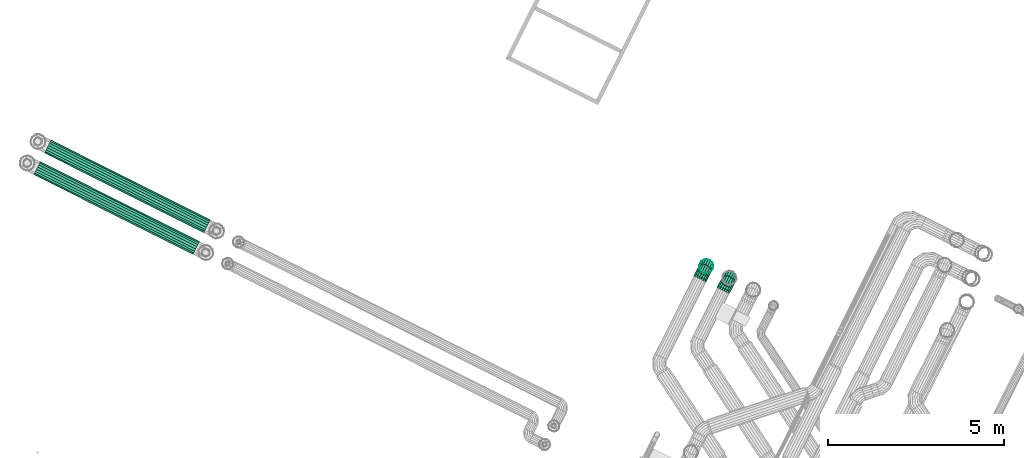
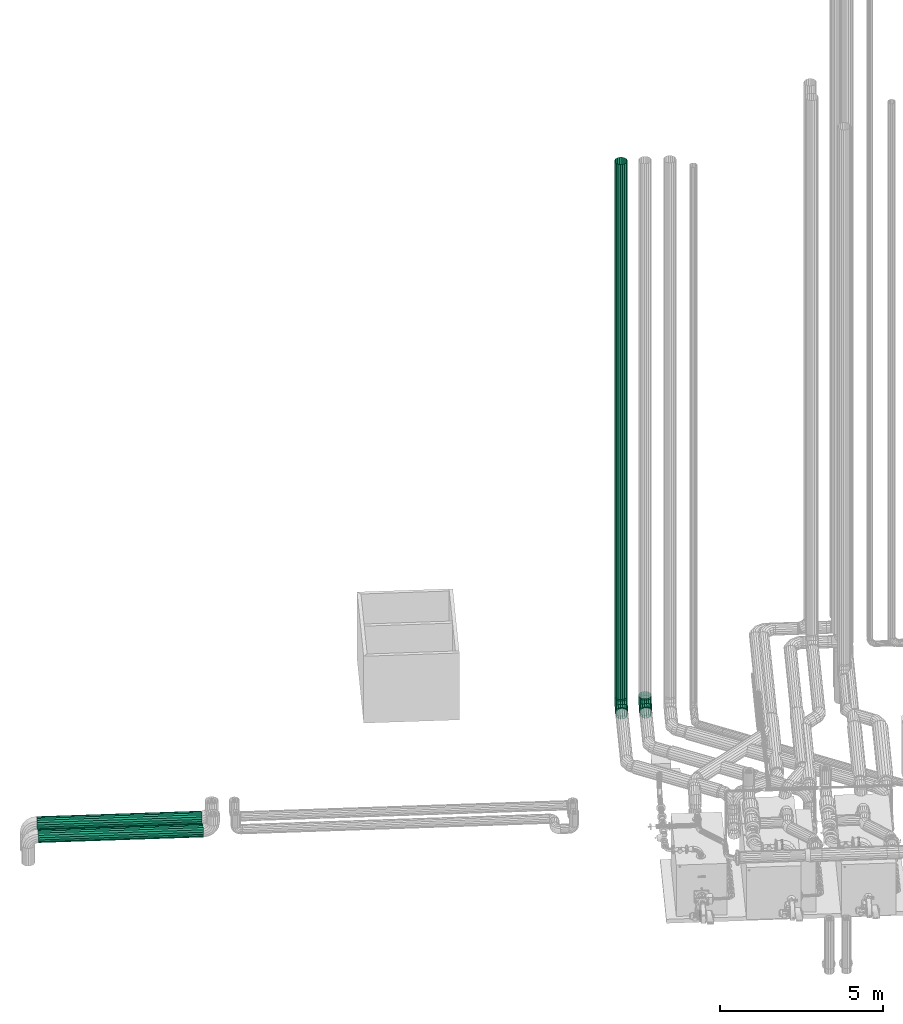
# One storey, part 29 of 206: 3 flow segments, 2 flow fittings.
"""IFC2X3 building model written with IfcOpenShell, lengths in metres."""

from ifc_helpers import new_model, si_unit, derived_unit, direction, frame, origin, place, context, subcontext, project, spatial, face_set, surface_model, source, transform, mapped, material, type_object, type_shapes, element, save


model = new_model("IFC2X3")

# Units and contexts
model_context = context("Model", 3, precision=5.2338327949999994e-05, world=origin(), true_north=direction((0.0, 1.0)))
body_context = subcontext(model_context, "Body", "Model", "MODEL_VIEW")
ifc_project = project(units=[si_unit("LENGTHUNIT", "METRE"), si_unit("AREAUNIT", "SQUARE_METRE"), si_unit("VOLUMEUNIT", "CUBIC_METRE"), si_unit("MASSUNIT", "GRAM", prefix="KILO"), si_unit("PLANEANGLEUNIT", "RADIAN"), derived_unit("THERMALTRANSMITTANCEUNIT", [(si_unit("MASSUNIT", "GRAM", prefix="KILO"), 1), (si_unit("THERMODYNAMICTEMPERATUREUNIT", "KELVIN"), -1), (si_unit("TIMEUNIT", "SECOND"), -3)])], contexts=[model_context])

# Site, building, storey
site_placement = place(None, frame((0.0, 0.0, 0.0), z_axis=(0.0, 0.0, 1.0), x_axis=(0.8939966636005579, -0.4480736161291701, 0.0)))
site = spatial("IfcSite", under=ifc_project, at=site_placement, Name="Default", CompositionType="ELEMENT")
building_placement = place(site_placement, origin())
building = spatial("IfcBuilding", under=site, at=building_placement, CompositionType="ELEMENT")
storey_placement = place(building_placement, origin())
storey = spatial("IfcBuildingStorey", under=building, at=storey_placement, Name="Erdgeschoss", CompositionType="ELEMENT", Elevation=0.0)

# Flow fitting
ifc_material_1 = material(Name="IfcSurfaceStyle #251447")
distribution_element_type_1 = type_object("IfcDistributionElementType", Name="Segmentbogen 4 teilig 280394:Segmentbogen 4 teilig 280394", material=ifc_material_1)
shared_shape_1 = source(origin(), body_context, "Body", "SurfaceModel", [
    surface_model("IfcFaceBasedSurfaceModel", [(19.66102261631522, 13.347668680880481, 2.6), (19.648961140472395, 13.279264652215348, 2.6), (19.648961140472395, 13.279264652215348, 2.511149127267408), (19.66102261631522, 13.347668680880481, 2.4928203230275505), (19.61423150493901, 13.219111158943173, 2.6), (19.61423150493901, 13.219111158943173, 2.527267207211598), (19.56102261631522, 13.174463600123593, 2.6), (19.56102261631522, 13.174463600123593, 2.539230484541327), (19.495752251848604, 13.15070713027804, 2.6), (19.495752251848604, 13.15070713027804, 2.5455960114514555), (19.426292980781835, 13.150707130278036, 2.6), (19.426292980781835, 13.150707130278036, 2.5455960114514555), (19.361022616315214, 13.17446360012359, 2.6), (19.361022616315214, 13.17446360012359, 2.539230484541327), (19.30781372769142, 13.21911115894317, 2.6), (19.30781372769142, 13.21911115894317, 2.527267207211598), (19.273084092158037, 13.279264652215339, 2.6), (19.273084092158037, 13.279264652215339, 2.511149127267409), (19.261022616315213, 13.347668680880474, 2.6), (19.261022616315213, 13.3476686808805, 2.4928203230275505), (19.273084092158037, 13.41607270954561, 2.6), (19.273084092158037, 13.41607270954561, 2.4744915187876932), (19.30781372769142, 13.476226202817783, 2.6), (19.30781372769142, 13.476226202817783, 2.458373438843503), (19.361022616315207, 13.520873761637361, 2.6), (19.361022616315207, 13.520873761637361, 2.4464101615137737), (19.426292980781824, 13.544630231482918, 2.6), (19.426292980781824, 13.544630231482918, 2.440044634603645), (19.495752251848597, 13.544630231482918, 2.6), (19.495752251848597, 13.544630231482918, 2.440044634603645), (19.561022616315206, 13.52087376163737, 2.6), (19.561022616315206, 13.52087376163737, 2.4464101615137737), (19.614231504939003, 13.476226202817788, 2.6), (19.614231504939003, 13.476226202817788, 2.458373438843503), (19.648961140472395, 13.416072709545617, 2.6), (19.648961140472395, 13.416072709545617, 2.4744915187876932), (19.648961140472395, 13.190413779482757, 2.357254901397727), (19.661022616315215, 13.240489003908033, 2.30717967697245), (19.614231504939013, 13.146378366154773, 2.401290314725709), (19.56102261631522, 13.11369408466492, 2.43397459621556), (19.495752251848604, 13.096303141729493, 2.4513655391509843), (19.426292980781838, 13.096303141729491, 2.4513655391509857), (19.36102261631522, 13.113694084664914, 2.4339745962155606), (19.30781372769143, 13.146378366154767, 2.401290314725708), (19.27308409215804, 13.190413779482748, 2.357254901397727), (19.26102261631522, 13.240489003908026, 2.30717967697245), (19.273084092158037, 13.290564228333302, 2.257104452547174), (19.30781372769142, 13.334599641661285, 2.2130690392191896), (19.361022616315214, 13.36728392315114, 2.1803847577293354), (19.426292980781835, 13.384674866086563, 2.1629938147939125), (19.4957522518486, 13.384674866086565, 2.1629938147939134), (19.56102261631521, 13.367283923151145, 2.1803847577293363), (19.614231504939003, 13.334599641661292, 2.2130690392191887), (19.648961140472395, 13.29056422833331, 2.257104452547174), (19.648961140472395, 13.036519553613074, 2.268404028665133), (19.661022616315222, 13.054848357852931, 2.2000000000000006), (19.614231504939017, 13.020401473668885, 2.328557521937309), (19.56102261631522, 13.008438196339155, 2.37320508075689), (19.495752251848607, 13.002072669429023, 2.3969615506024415), (19.426292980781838, 13.002072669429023, 2.3969615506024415), (19.36102261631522, 13.008438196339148, 2.3732050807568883), (19.307813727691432, 13.020401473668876, 2.3285575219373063), (19.273084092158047, 13.036519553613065, 2.2684040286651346), (19.261022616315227, 13.054848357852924, 2.1999999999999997), (19.273084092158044, 13.073177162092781, 2.1315959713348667), (19.307813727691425, 13.089295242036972, 2.0714424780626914), (19.36102261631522, 13.1012585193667, 2.0267949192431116), (19.426292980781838, 13.107624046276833, 2.0030384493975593), (19.495752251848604, 13.107624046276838, 2.003038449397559), (19.56102261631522, 13.101258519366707, 2.0267949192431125), (19.614231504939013, 13.089295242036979, 2.071442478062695), (19.648961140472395, 13.07317716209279, 2.131595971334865), (19.648961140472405, 12.947668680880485, 2.2684040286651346), (19.661022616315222, 12.947668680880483, 2.1999999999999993), (19.61423150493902, 12.947668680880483, 2.3285575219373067), (19.561022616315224, 12.947668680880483, 2.37320508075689), (19.49575225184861, 12.947668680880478, 2.3969615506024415), (19.42629298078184, 12.947668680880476, 2.396961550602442), (19.36102261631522, 12.947668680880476, 2.373205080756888), (19.307813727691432, 12.947668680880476, 2.3285575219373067), (19.273084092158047, 12.947668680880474, 2.2684040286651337), (19.26102261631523, 12.947668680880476, 2.2000000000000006), (19.273084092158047, 12.947668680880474, 2.1315959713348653), (19.307813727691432, 12.947668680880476, 2.0714424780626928), (19.36102261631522, 12.947668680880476, 2.0267949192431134), (19.42629298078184, 12.947668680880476, 2.003038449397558), (19.49575225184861, 12.94766868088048, 2.003038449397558), (19.561022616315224, 12.947668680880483, 2.0267949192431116), (19.61423150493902, 12.947668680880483, 2.0714424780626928), (19.648961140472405, 12.947668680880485, 2.1315959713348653)], [face_set([[[0, 1, 2, 3]], [[1, 4, 5, 2]], [[4, 6, 7, 5]], [[6, 8, 9, 7]], [[8, 10, 11, 9]], [[10, 12, 13, 11]], [[12, 14, 15, 13]], [[14, 16, 17, 15]], [[16, 18, 19, 17]], [[18, 20, 21, 19]], [[20, 22, 23, 21]], [[22, 24, 25, 23]], [[24, 26, 27, 25]], [[26, 28, 29, 27]], [[28, 30, 31, 29]], [[30, 32, 33, 31]], [[32, 34, 35, 33]], [[34, 0, 3, 35]], [[3, 2, 36, 37]], [[2, 5, 38, 36]], [[5, 7, 39, 38]], [[7, 9, 40, 39]], [[9, 11, 41, 40]], [[11, 13, 42, 41]], [[13, 15, 43, 42]], [[15, 17, 44, 43]], [[17, 19, 45, 44]], [[19, 21, 46, 45]], [[21, 23, 47, 46]], [[23, 25, 48, 47]], [[25, 27, 49, 48]], [[27, 29, 50, 49]], [[29, 31, 51, 50]], [[31, 33, 52, 51]], [[33, 35, 53, 52]], [[35, 3, 37, 53]], [[37, 36, 54, 55]], [[36, 38, 56, 54]], [[38, 39, 57, 56]], [[39, 40, 58, 57]], [[40, 41, 59, 58]], [[41, 42, 60, 59]], [[42, 43, 61, 60]], [[43, 44, 62, 61]], [[44, 45, 63, 62]], [[45, 46, 64, 63]], [[46, 47, 65, 64]], [[47, 48, 66, 65]], [[48, 49, 67, 66]], [[49, 50, 68, 67]], [[50, 51, 69, 68]], [[51, 52, 70, 69]], [[52, 53, 71, 70]], [[53, 37, 55, 71]], [[55, 54, 72, 73]], [[54, 56, 74, 72]], [[56, 57, 75, 74]], [[57, 58, 76, 75]], [[58, 59, 77, 76]], [[59, 60, 78, 77]], [[60, 61, 79, 78]], [[61, 62, 80, 79]], [[62, 63, 81, 80]], [[63, 64, 82, 81]], [[64, 65, 83, 82]], [[65, 66, 84, 83]], [[66, 67, 85, 84]], [[67, 68, 86, 85]], [[68, 69, 87, 86]], [[69, 70, 88, 87]], [[70, 71, 89, 88]], [[71, 55, 73, 89]]])]),
])
type_shapes(distribution_element_type_1, [shared_shape_1])
flow_fitting_1_placement = place(storey_placement, origin())
element("IfcFlowFitting", 1, at=flow_fitting_1_placement, inside=storey, type_object=distribution_element_type_1, material=ifc_material_1, Name="Segmentbogen 4 teilig", ObjectType="Segmentbogen 4 teilig", context=body_context, shape_type="MappedRepresentation", body=[
    mapped(shared_shape_1, transform((0.0, 0.0, 0.0), scale=1.0)),
])

# Flow segment
distribution_element_type_2 = type_object("IfcDistributionElementType", Name="Wickelfalzrohr 280572:Wickelfalzrohr 280572", material=ifc_material_1)
shared_shape_2 = source(origin(), body_context, "Body", "SurfaceModel", [
    surface_model("IfcFaceBasedSurfaceModel", [(19.26102261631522, 13.347668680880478, 2.6), (19.273084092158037, 13.279264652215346, 2.6), (19.273084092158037, 13.279264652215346, 22.599999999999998), (19.261022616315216, 13.347668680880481, 22.599999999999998), (19.307813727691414, 13.219111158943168, 2.6), (19.307813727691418, 13.219111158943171, 22.599999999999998), (19.36102261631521, 13.174463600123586, 2.6), (19.36102261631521, 13.174463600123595, 22.599999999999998), (19.426292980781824, 13.15070713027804, 2.6), (19.426292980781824, 13.150707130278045, 22.599999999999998), (19.495752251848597, 13.150707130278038, 2.6), (19.495752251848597, 13.150707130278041, 22.599999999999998), (19.561022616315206, 13.174463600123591, 2.6), (19.561022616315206, 13.1744636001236, 22.599999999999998), (19.614231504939, 13.219111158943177, 2.6), (19.614231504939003, 13.219111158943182, 22.599999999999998), (19.648961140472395, 13.279264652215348, 2.6), (19.648961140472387, 13.279264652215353, 22.599999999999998), (19.66102261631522, 13.347668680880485, 2.6), (19.66102261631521, 13.347668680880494, 22.599999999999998), (19.648961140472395, 13.416072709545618, 2.6), (19.648961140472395, 13.416072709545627, 22.599999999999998), (19.614231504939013, 13.476226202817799, 2.6), (19.614231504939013, 13.476226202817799, 22.599999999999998), (19.561022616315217, 13.520873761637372, 2.6), (19.56102261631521, 13.520873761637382, 22.599999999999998), (19.495752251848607, 13.544630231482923, 2.6), (19.495752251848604, 13.544630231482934, 22.599999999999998), (19.426292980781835, 13.54463023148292, 2.6), (19.426292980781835, 13.544630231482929, 22.599999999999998), (19.36102261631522, 13.520873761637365, 2.6), (19.361022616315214, 13.520873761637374, 22.599999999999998), (19.30781372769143, 13.476226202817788, 2.6), (19.30781372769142, 13.476226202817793, 22.599999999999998), (19.273084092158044, 13.41607270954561, 2.6), (19.27308409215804, 13.416072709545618, 22.599999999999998)], [face_set([[[0, 1, 2, 3]], [[1, 4, 5, 2]], [[4, 6, 7, 5]], [[6, 8, 9, 7]], [[8, 10, 11, 9]], [[10, 12, 13, 11]], [[12, 14, 15, 13]], [[14, 16, 17, 15]], [[16, 18, 19, 17]], [[18, 20, 21, 19]], [[20, 22, 23, 21]], [[22, 24, 25, 23]], [[24, 26, 27, 25]], [[26, 28, 29, 27]], [[28, 30, 31, 29]], [[30, 32, 33, 31]], [[32, 34, 35, 33]], [[34, 0, 3, 35]]])]),
])
type_shapes(distribution_element_type_2, [shared_shape_2])
flow_segment_1_placement = place(storey_placement, origin())
element("IfcFlowSegment", 2, at=flow_segment_1_placement, inside=storey, type_object=distribution_element_type_2, material=ifc_material_1, Name="Wickelfalzrohr", ObjectType="Wickelfalzrohr", context=body_context, shape_type="MappedRepresentation", body=[
    mapped(shared_shape_2, transform((0.0, 0.0, 0.0), scale=1.0)),
])

# Flow fitting
distribution_element_type_3 = type_object("IfcDistributionElementType", Name="Segmentbogen 4 teilig 281152:Segmentbogen 4 teilig 281152", material=ifc_material_1)
shared_shape_3 = source(origin(), body_context, "Body", "SurfaceModel", [
    surface_model("IfcFaceBasedSurfaceModel", [(19.99823419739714, 12.947668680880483, 2.2), (20.010295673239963, 12.947668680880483, 2.2684040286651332), (20.010295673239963, 13.036519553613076, 2.2684040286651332), (19.99823419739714, 13.054848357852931, 2.2000000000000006), (20.045025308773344, 12.947668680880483, 2.3285575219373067), (20.045025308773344, 13.020401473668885, 2.3285575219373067), (20.098234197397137, 12.947668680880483, 2.3732050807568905), (20.098234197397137, 13.008438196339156, 2.3732050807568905), (20.163504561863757, 12.947668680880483, 2.396961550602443), (20.163504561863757, 13.002072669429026, 2.396961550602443), (20.23296383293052, 12.947668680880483, 2.396961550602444), (20.23296383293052, 13.002072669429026, 2.396961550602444), (20.29823419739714, 12.947668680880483, 2.373205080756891), (20.29823419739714, 13.008438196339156, 2.373205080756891), (20.351443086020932, 12.947668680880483, 2.32855752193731), (20.351443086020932, 13.020401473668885, 2.32855752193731), (20.386172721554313, 12.947668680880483, 2.2684040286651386), (20.386172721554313, 13.036519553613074, 2.2684040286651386), (20.39823419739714, 12.947668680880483, 2.200000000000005), (20.398234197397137, 13.054848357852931, 2.199999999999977), (20.386172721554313, 12.947668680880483, 2.13159597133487), (20.386172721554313, 13.07317716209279, 2.13159597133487), (20.351443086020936, 12.947668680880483, 2.071442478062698), (20.351443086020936, 13.08929524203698, 2.071442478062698), (20.298234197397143, 12.947668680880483, 2.026794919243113), (20.298234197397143, 13.10125851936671, 2.026794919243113), (20.232963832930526, 12.947668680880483, 2.0030384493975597), (20.232963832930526, 13.107624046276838, 2.0030384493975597), (20.163504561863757, 12.947668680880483, 2.0030384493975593), (20.163504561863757, 13.107624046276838, 2.0030384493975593), (20.09823419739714, 12.947668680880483, 2.026794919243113), (20.09823419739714, 13.10125851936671, 2.026794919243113), (20.045025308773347, 12.947668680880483, 2.071442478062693), (20.045025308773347, 13.08929524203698, 2.071442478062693), (20.010295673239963, 12.947668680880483, 2.131595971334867), (20.010295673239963, 13.07317716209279, 2.131595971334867), (20.010295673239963, 13.190413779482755, 2.357254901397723), (19.99823419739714, 13.240489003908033, 2.307179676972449), (20.045025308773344, 13.146378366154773, 2.401290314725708), (20.098234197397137, 13.113694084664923, 2.433974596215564), (20.163504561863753, 13.096303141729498, 2.451365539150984), (20.232963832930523, 13.096303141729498, 2.4513655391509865), (20.29823419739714, 13.113694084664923, 2.4339745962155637), (20.351443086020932, 13.146378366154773, 2.401290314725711), (20.386172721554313, 13.190413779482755, 2.3572549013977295), (20.398234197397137, 13.240489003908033, 2.307179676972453), (20.386172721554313, 13.290564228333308, 2.2571044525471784), (20.351443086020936, 13.334599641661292, 2.2130690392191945), (20.298234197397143, 13.367283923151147, 2.1803847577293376), (20.232963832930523, 13.38467486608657, 2.162993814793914), (20.163504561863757, 13.38467486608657, 2.162993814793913), (20.09823419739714, 13.367283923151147, 2.180384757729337), (20.045025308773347, 13.334599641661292, 2.2130690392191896), (20.010295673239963, 13.290564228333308, 2.2571044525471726), (20.010295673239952, 13.279264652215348, 2.5111491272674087), (19.998234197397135, 13.347668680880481, 2.4928203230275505), (20.045025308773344, 13.219111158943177, 2.527267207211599), (20.098234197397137, 13.174463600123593, 2.5392304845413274), (20.163504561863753, 13.150707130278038, 2.5455960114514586), (20.23296383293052, 13.15070713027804, 2.54559601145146), (20.298234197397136, 13.174463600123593, 2.5392304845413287), (20.35144308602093, 13.219111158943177, 2.5272672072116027), (20.386172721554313, 13.279264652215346, 2.5111491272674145), (20.39823419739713, 13.347668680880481, 2.4928203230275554), (20.38617272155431, 13.416072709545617, 2.474491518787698), (20.351443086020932, 13.476226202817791, 2.4583734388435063), (20.298234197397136, 13.520873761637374, 2.4464101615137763), (20.232963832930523, 13.544630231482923, 2.4400446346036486), (20.163504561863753, 13.544630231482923, 2.440044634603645), (20.098234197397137, 13.52087376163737, 2.446410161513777), (20.045025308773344, 13.476226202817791, 2.4583734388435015), (20.010295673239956, 13.41607270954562, 2.4744915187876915), (20.010295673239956, 13.279264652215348, 2.5999999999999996), (19.99823419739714, 13.347668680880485, 2.5999999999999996), (20.04502530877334, 13.219111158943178, 2.5999999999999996), (20.098234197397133, 13.174463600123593, 2.6), (20.16350456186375, 13.15070713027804, 2.6000000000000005), (20.23296383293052, 13.15070713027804, 2.6000000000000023), (20.298234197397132, 13.174463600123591, 2.6000000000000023), (20.35144308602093, 13.219111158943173, 2.600000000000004), (20.38617272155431, 13.279264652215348, 2.600000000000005), (20.398234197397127, 13.34766868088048, 2.600000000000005), (20.386172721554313, 13.416072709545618, 2.600000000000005), (20.35144308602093, 13.476226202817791, 2.6000000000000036), (20.298234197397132, 13.520873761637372, 2.6000000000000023), (20.23296383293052, 13.544630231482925, 2.6000000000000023), (20.16350456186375, 13.544630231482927, 2.6), (20.098234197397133, 13.520873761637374, 2.6), (20.04502530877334, 13.476226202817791, 2.5999999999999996), (20.010295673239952, 13.416072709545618, 2.5999999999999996)], [face_set([[[0, 1, 2, 3]], [[1, 4, 5, 2]], [[4, 6, 7, 5]], [[6, 8, 9, 7]], [[8, 10, 11, 9]], [[10, 12, 13, 11]], [[12, 14, 15, 13]], [[14, 16, 17, 15]], [[16, 18, 19, 17]], [[18, 20, 21, 19]], [[20, 22, 23, 21]], [[22, 24, 25, 23]], [[24, 26, 27, 25]], [[26, 28, 29, 27]], [[28, 30, 31, 29]], [[30, 32, 33, 31]], [[32, 34, 35, 33]], [[34, 0, 3, 35]], [[3, 2, 36, 37]], [[2, 5, 38, 36]], [[5, 7, 39, 38]], [[7, 9, 40, 39]], [[9, 11, 41, 40]], [[11, 13, 42, 41]], [[13, 15, 43, 42]], [[15, 17, 44, 43]], [[17, 19, 45, 44]], [[19, 21, 46, 45]], [[21, 23, 47, 46]], [[23, 25, 48, 47]], [[25, 27, 49, 48]], [[27, 29, 50, 49]], [[29, 31, 51, 50]], [[31, 33, 52, 51]], [[33, 35, 53, 52]], [[35, 3, 37, 53]], [[37, 36, 54, 55]], [[36, 38, 56, 54]], [[38, 39, 57, 56]], [[39, 40, 58, 57]], [[40, 41, 59, 58]], [[41, 42, 60, 59]], [[42, 43, 61, 60]], [[43, 44, 62, 61]], [[44, 45, 63, 62]], [[45, 46, 64, 63]], [[46, 47, 65, 64]], [[47, 48, 66, 65]], [[48, 49, 67, 66]], [[49, 50, 68, 67]], [[50, 51, 69, 68]], [[51, 52, 70, 69]], [[52, 53, 71, 70]], [[53, 37, 55, 71]], [[55, 54, 72, 73]], [[54, 56, 74, 72]], [[56, 57, 75, 74]], [[57, 58, 76, 75]], [[58, 59, 77, 76]], [[59, 60, 78, 77]], [[60, 61, 79, 78]], [[61, 62, 80, 79]], [[62, 63, 81, 80]], [[63, 64, 82, 81]], [[64, 65, 83, 82]], [[65, 66, 84, 83]], [[66, 67, 85, 84]], [[67, 68, 86, 85]], [[68, 69, 87, 86]], [[69, 70, 88, 87]], [[70, 71, 89, 88]], [[71, 55, 73, 89]]])]),
])
type_shapes(distribution_element_type_3, [shared_shape_3])
flow_fitting_2_placement = place(storey_placement, origin())
element("IfcFlowFitting", 3, at=flow_fitting_2_placement, inside=storey, type_object=distribution_element_type_3, material=ifc_material_1, Name="Segmentbogen 4 teilig", ObjectType="Segmentbogen 4 teilig", context=body_context, shape_type="MappedRepresentation", body=[
    mapped(shared_shape_3, transform((0.0, 0.0, 0.0), scale=1.0)),
])

# Flow segments
ifc_material_2 = material(Name="IfcSurfaceStyle #9317")
distribution_element_type_4 = type_object("IfcDistributionElementType", Name="Stahlrohr nach DIN 2448 304028:Stahlrohr nach DIN 2448 304028", material=ifc_material_2)
shared_shape_4 = source(origin(), body_context, "Body", "SurfaceModel", [
    surface_model("IfcFaceBasedSurfaceModel", [(1.221269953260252, 7.217658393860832, 2.317798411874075), (1.221269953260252, 7.224265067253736, 2.280330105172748), (6.282814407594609, 7.224265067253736, 2.280330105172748), (6.282814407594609, 7.217658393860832, 2.3177984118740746), (1.221269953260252, 7.243288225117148, 2.2473810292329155), (6.282814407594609, 7.243288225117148, 2.2473810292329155), (1.221269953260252, 7.272433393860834, 2.22292532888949), (6.282814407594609, 7.272433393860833, 2.22292532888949), (1.221269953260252, 7.308185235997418, 2.209912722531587), (6.282814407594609, 7.308185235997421, 2.209912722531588), (1.221269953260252, 7.346231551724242, 2.2099127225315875), (6.282814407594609, 7.346231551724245, 2.2099127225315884), (1.221269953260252, 7.381983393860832, 2.22292532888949), (6.282814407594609, 7.381983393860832, 2.22292532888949), (1.221269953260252, 7.411128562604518, 2.247381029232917), (6.282814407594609, 7.411128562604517, 2.2473810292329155), (1.221269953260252, 7.430151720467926, 2.2803301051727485), (6.282814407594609, 7.4301517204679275, 2.280330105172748), (1.221269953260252, 7.436758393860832, 2.3177984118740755), (6.282814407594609, 7.436758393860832, 2.3177984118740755), (1.221269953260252, 7.4301517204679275, 2.355266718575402), (6.282814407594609, 7.4301517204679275, 2.3552667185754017), (1.221269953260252, 7.411128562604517, 2.3882157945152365), (6.282814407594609, 7.411128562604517, 2.388215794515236), (1.221269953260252, 7.381983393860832, 2.41267149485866), (6.282814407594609, 7.381983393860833, 2.4126714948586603), (1.221269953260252, 7.346231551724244, 2.425684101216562), (6.282814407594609, 7.346231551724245, 2.4256841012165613), (1.221269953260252, 7.308185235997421, 2.4256841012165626), (6.282814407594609, 7.3081852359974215, 2.4256841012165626), (1.221269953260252, 7.272433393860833, 2.4126714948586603), (6.282814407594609, 7.272433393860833, 2.4126714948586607), (1.221269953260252, 7.243288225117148, 2.388215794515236), (6.282814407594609, 7.243288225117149, 2.388215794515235), (1.221269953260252, 7.224265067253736, 2.3552667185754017), (6.282814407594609, 7.224265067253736, 2.3552667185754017), (1.221269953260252, 7.1176583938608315, 2.3177984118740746), (1.221269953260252, 7.130295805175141, 2.246128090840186), (6.282814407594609, 7.130295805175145, 2.2461280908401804), (6.282814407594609, 7.117658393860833, 2.317798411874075), (1.221269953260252, 7.166683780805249, 2.183102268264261), (6.282814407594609, 7.1666837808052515, 2.18310226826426), (1.221269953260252, 7.222433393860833, 2.1363227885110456), (6.282814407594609, 7.222433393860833, 2.1363227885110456), (1.221269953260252, 7.290820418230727, 2.111431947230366), (6.282814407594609, 7.290820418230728, 2.1114319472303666), (1.221269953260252, 7.363596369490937, 2.1114319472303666), (6.282814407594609, 7.363596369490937, 2.1114319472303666), (1.221269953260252, 7.431983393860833, 2.1363227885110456), (6.282814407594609, 7.4319833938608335, 2.1363227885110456), (1.221269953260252, 7.487733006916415, 2.1831022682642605), (6.282814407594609, 7.487733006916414, 2.1831022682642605), (1.221269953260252, 7.524120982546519, 2.2461280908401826), (6.282814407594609, 7.5241209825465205, 2.2461280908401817), (1.221269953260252, 7.536758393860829, 2.317798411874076), (6.282814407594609, 7.536758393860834, 2.3177984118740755), (1.221269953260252, 7.524120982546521, 2.38946873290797), (6.282814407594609, 7.524120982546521, 2.3894687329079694), (1.221269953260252, 7.487733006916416, 2.45249455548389), (6.282814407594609, 7.487733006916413, 2.45249455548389), (1.221269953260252, 7.431983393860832, 2.4992740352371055), (6.282814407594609, 7.431983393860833, 2.499274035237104), (1.221269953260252, 7.363596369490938, 2.524164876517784), (6.282814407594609, 7.363596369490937, 2.524164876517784), (1.221269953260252, 7.290820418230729, 2.524164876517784), (6.282814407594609, 7.290820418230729, 2.524164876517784), (1.221269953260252, 7.222433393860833, 2.499274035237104), (6.282814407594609, 7.222433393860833, 2.4992740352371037), (1.221269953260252, 7.16668378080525, 2.45249455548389), (6.282814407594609, 7.166683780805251, 2.4524945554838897), (1.221269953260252, 7.130295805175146, 2.3894687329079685), (6.282814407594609, 7.130295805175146, 2.3894687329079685)], [face_set([[[0, 1, 2, 3]], [[1, 4, 5, 2]], [[4, 6, 7, 5]], [[6, 8, 9, 7]], [[8, 10, 11, 9]], [[10, 12, 13, 11]], [[12, 14, 15, 13]], [[14, 16, 17, 15]], [[16, 18, 19, 17]], [[18, 20, 21, 19]], [[20, 22, 23, 21]], [[22, 24, 25, 23]], [[24, 26, 27, 25]], [[26, 28, 29, 27]], [[28, 30, 31, 29]], [[30, 32, 33, 31]], [[32, 34, 35, 33]], [[34, 0, 3, 35]], [[36, 37, 38, 39]], [[37, 40, 41, 38]], [[40, 42, 43, 41]], [[42, 44, 45, 43]], [[44, 46, 47, 45]], [[46, 48, 49, 47]], [[48, 50, 51, 49]], [[50, 52, 53, 51]], [[52, 54, 55, 53]], [[54, 56, 57, 55]], [[56, 58, 59, 57]], [[58, 60, 61, 59]], [[60, 62, 63, 61]], [[62, 64, 65, 63]], [[64, 66, 67, 65]], [[66, 68, 69, 67]], [[68, 70, 71, 69]], [[70, 36, 39, 71]]])]),
])
type_shapes(distribution_element_type_4, [shared_shape_4])
flow_segment_2_placement = place(storey_placement, origin())
element("IfcFlowSegment", 4, at=flow_segment_2_placement, inside=storey, type_object=distribution_element_type_4, material=ifc_material_2, Name="Stahlrohr nach DIN 2448", ObjectType="Stahlrohr nach DIN 2448", context=body_context, shape_type="MappedRepresentation", body=[
    mapped(shared_shape_4, transform((0.0, 0.0, 0.0), scale=1.0)),
])
ifc_material_3 = material(Name="IfcSurfaceStyle #1741")
distribution_element_type_5 = type_object("IfcDistributionElementType", Name="Stahlrohr nach DIN 2448 304659:Stahlrohr nach DIN 2448 304659", material=ifc_material_3)
shared_shape_5 = source(origin(), body_context, "Body", "SurfaceModel", [
    surface_model("IfcFaceBasedSurfaceModel", [(1.2208935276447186, 7.902658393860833, 2.317798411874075), (1.2208935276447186, 7.909265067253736, 2.280330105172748), (6.282437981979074, 7.909265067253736, 2.280330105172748), (6.282437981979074, 7.902658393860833, 2.317798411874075), (1.2208935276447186, 7.928288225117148, 2.2473810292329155), (6.282437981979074, 7.928288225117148, 2.2473810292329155), (1.2208935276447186, 7.957433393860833, 2.2229253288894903), (6.282437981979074, 7.957433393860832, 2.2229253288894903), (1.2208935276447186, 7.9931852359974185, 2.209912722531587), (6.282437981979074, 7.993185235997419, 2.209912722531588), (1.2208935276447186, 8.031231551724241, 2.2099127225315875), (6.282437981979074, 8.031231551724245, 2.2099127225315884), (1.2208935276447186, 8.066983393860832, 2.2229253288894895), (6.282437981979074, 8.066983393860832, 2.2229253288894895), (1.2208935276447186, 8.096128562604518, 2.247381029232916), (6.282437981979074, 8.096128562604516, 2.2473810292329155), (1.2208935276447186, 8.115151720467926, 2.2803301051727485), (6.282437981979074, 8.115151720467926, 2.2803301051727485), (1.2208935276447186, 8.121758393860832, 2.3177984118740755), (6.282437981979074, 8.121758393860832, 2.3177984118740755), (1.2208935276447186, 8.115151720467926, 2.3552667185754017), (6.282437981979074, 8.115151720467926, 2.3552667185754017), (1.2208935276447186, 8.096128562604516, 2.388215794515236), (6.282437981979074, 8.096128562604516, 2.388215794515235), (1.2208935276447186, 8.066983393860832, 2.412671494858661), (6.282437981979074, 8.066983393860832, 2.412671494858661), (1.2208935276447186, 8.031231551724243, 2.425684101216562), (6.282437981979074, 8.031231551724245, 2.4256841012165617), (1.2208935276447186, 7.993185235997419, 2.4256841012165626), (6.282437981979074, 7.99318523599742, 2.4256841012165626), (1.2208935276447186, 7.957433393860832, 2.41267149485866), (6.282437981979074, 7.957433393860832, 2.4126714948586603), (1.2208935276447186, 7.928288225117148, 2.388215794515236), (6.282437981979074, 7.928288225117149, 2.3882157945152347), (1.2208935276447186, 7.909265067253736, 2.3552667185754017), (6.282437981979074, 7.909265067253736, 2.3552667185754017), (1.2208935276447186, 7.802658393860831, 2.3177984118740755), (1.2208935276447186, 7.815295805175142, 2.2461280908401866), (6.282437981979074, 7.815295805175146, 2.246128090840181), (6.282437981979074, 7.802658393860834, 2.317798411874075), (1.2208935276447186, 7.85168378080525, 2.1831022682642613), (6.282437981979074, 7.851683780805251, 2.183102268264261), (1.2208935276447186, 7.907433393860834, 2.1363227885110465), (6.282437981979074, 7.907433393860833, 2.1363227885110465), (1.2208935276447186, 7.975820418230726, 2.111431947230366), (6.282437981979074, 7.975820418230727, 2.111431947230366), (1.2208935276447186, 8.048596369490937, 2.111431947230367), (6.282437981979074, 8.048596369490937, 2.111431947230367), (1.2208935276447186, 8.116983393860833, 2.1363227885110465), (6.282437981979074, 8.116983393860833, 2.1363227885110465), (1.2208935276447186, 8.172733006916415, 2.183102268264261), (6.282437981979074, 8.172733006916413, 2.183102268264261), (1.2208935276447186, 8.209120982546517, 2.2461280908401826), (6.282437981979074, 8.20912098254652, 2.2461280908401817), (1.2208935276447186, 8.22175839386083, 2.317798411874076), (6.282437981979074, 8.221758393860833, 2.317798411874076), (1.2208935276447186, 8.209120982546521, 2.38946873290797), (6.282437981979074, 8.209120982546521, 2.3894687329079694), (1.2208935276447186, 8.172733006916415, 2.4524945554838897), (6.282437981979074, 8.172733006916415, 2.4524945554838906), (1.2208935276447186, 8.11698339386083, 2.499274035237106), (6.282437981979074, 8.11698339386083, 2.499274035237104), (1.2208935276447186, 8.048596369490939, 2.524164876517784), (6.282437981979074, 8.048596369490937, 2.5241648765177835), (1.2208935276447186, 7.975820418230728, 2.524164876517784), (6.282437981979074, 7.975820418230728, 2.524164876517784), (1.2208935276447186, 7.907433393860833, 2.4992740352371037), (6.282437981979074, 7.907433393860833, 2.4992740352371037), (1.2208935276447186, 7.85168378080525, 2.4524945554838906), (6.282437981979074, 7.85168378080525, 2.4524945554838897), (1.2208935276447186, 7.815295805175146, 2.389468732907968), (6.282437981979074, 7.815295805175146, 2.3894687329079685)], [face_set([[[0, 1, 2, 3]], [[1, 4, 5, 2]], [[4, 6, 7, 5]], [[6, 8, 9, 7]], [[8, 10, 11, 9]], [[10, 12, 13, 11]], [[12, 14, 15, 13]], [[14, 16, 17, 15]], [[16, 18, 19, 17]], [[18, 20, 21, 19]], [[20, 22, 23, 21]], [[22, 24, 25, 23]], [[24, 26, 27, 25]], [[26, 28, 29, 27]], [[28, 30, 31, 29]], [[30, 32, 33, 31]], [[32, 34, 35, 33]], [[34, 0, 3, 35]], [[36, 37, 38, 39]], [[37, 40, 41, 38]], [[40, 42, 43, 41]], [[42, 44, 45, 43]], [[44, 46, 47, 45]], [[46, 48, 49, 47]], [[48, 50, 51, 49]], [[50, 52, 53, 51]], [[52, 54, 55, 53]], [[54, 56, 57, 55]], [[56, 58, 59, 57]], [[58, 60, 61, 59]], [[60, 62, 63, 61]], [[62, 64, 65, 63]], [[64, 66, 67, 65]], [[66, 68, 69, 67]], [[68, 70, 71, 69]], [[70, 36, 39, 71]]])]),
])
type_shapes(distribution_element_type_5, [shared_shape_5])
flow_segment_3_placement = place(storey_placement, origin())
element("IfcFlowSegment", 5, at=flow_segment_3_placement, inside=storey, type_object=distribution_element_type_5, material=ifc_material_3, Name="Stahlrohr nach DIN 2448", ObjectType="Stahlrohr nach DIN 2448", context=body_context, shape_type="MappedRepresentation", body=[
    mapped(shared_shape_5, transform((0.0, 0.0, 0.0), scale=1.0)),
])

save(model, "model.ifc")
